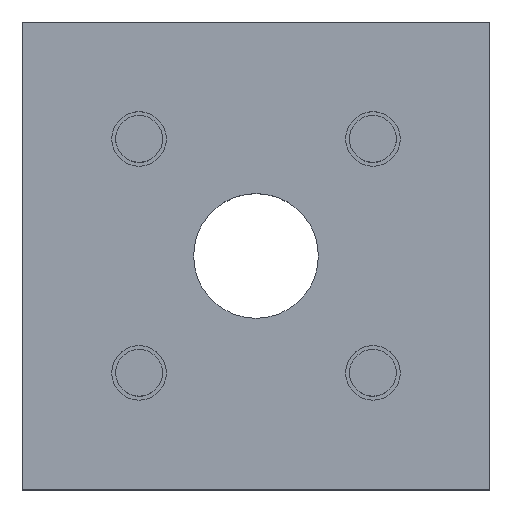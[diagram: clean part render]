
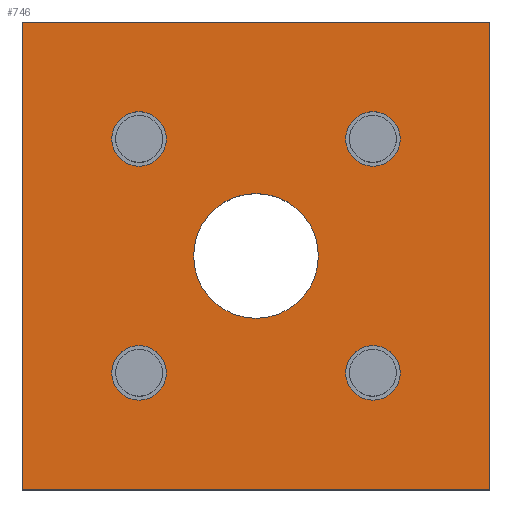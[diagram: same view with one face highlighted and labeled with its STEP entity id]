
A CAD part, top view. The second image highlights one B-rep face of the part: STEP entity #746.
In plain terms, the highlighted planar face has unit normal (0, 0, 1).
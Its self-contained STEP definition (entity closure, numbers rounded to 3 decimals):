
#202=CARTESIAN_POINT('',(15.,-18.5,0.0));
#203=VERTEX_POINT('',#202);
#204=CARTESIAN_POINT('',(15.,-15.,0.0));
#205=DIRECTION('',(0.0,0.0,-1.0));
#206=DIRECTION('',(0.0,1.0,0.0));
#207=AXIS2_PLACEMENT_3D('',#204,#205,#206);
#208=CIRCLE('',#207,3.5);
#209=EDGE_CURVE('',#203,#203,#208,.T.);
#312=CARTESIAN_POINT('',(-18.5,-15.,0.0));
#313=VERTEX_POINT('',#312);
#314=CARTESIAN_POINT('',(-15.,-15.,0.0));
#315=DIRECTION('',(0.0,0.0,-1.0));
#316=DIRECTION('',(1.0,0.0,0.0));
#317=AXIS2_PLACEMENT_3D('',#314,#315,#316);
#318=CIRCLE('',#317,3.5);
#319=EDGE_CURVE('',#313,#313,#318,.T.);
#422=CARTESIAN_POINT('',(-15.,18.5,0.0));
#423=VERTEX_POINT('',#422);
#424=CARTESIAN_POINT('',(-15.,15.,0.0));
#425=DIRECTION('',(0.0,0.0,-1.0));
#426=DIRECTION('',(0.0,-1.0,0.0));
#427=AXIS2_PLACEMENT_3D('',#424,#425,#426);
#428=CIRCLE('',#427,3.5);
#429=EDGE_CURVE('',#423,#423,#428,.T.);
#532=CARTESIAN_POINT('',(18.5,15.,0.0));
#533=VERTEX_POINT('',#532);
#534=CARTESIAN_POINT('',(15.,15.,0.0));
#535=DIRECTION('',(0.0,0.0,-1.0));
#536=DIRECTION('',(-1.0,0.0,0.0));
#537=AXIS2_PLACEMENT_3D('',#534,#535,#536);
#538=CIRCLE('',#537,3.5);
#539=EDGE_CURVE('',#533,#533,#538,.T.);
#584=CARTESIAN_POINT('',(8.,0.0,0.0));
#585=VERTEX_POINT('',#584);
#586=CARTESIAN_POINT('',(0.0,0.0,0.0));
#587=DIRECTION('',(0.0,0.0,-1.0));
#588=DIRECTION('',(1.0,0.0,0.0));
#589=AXIS2_PLACEMENT_3D('',#586,#587,#588);
#590=CIRCLE('',#589,8.);
#591=EDGE_CURVE('',#585,#585,#590,.T.);
#611=CARTESIAN_POINT('',(30.,-30.,0.0));
#612=VERTEX_POINT('',#611);
#619=CARTESIAN_POINT('',(-30.,-30.,0.0));
#620=VERTEX_POINT('',#619);
#621=CARTESIAN_POINT('',(30.,-30.,0.0));
#622=DIRECTION('',(-1.0,0.0,0.0));
#623=VECTOR('',#622,60.);
#624=LINE('',#621,#623);
#625=EDGE_CURVE('',#612,#620,#624,.T.);
#649=CARTESIAN_POINT('',(30.,30.,0.0));
#650=VERTEX_POINT('',#649);
#657=CARTESIAN_POINT('',(30.,30.,0.0));
#658=DIRECTION('',(0.0,-1.0,0.0));
#659=VECTOR('',#658,60.);
#660=LINE('',#657,#659);
#661=EDGE_CURVE('',#650,#612,#660,.T.);
#680=CARTESIAN_POINT('',(-30.,30.,0.0));
#681=VERTEX_POINT('',#680);
#688=CARTESIAN_POINT('',(-30.,30.,0.0));
#689=DIRECTION('',(1.0,0.0,0.0));
#690=VECTOR('',#689,60.);
#691=LINE('',#688,#690);
#692=EDGE_CURVE('',#681,#650,#691,.T.);
#710=CARTESIAN_POINT('',(-30.,-30.,0.0));
#711=DIRECTION('',(0.0,1.0,0.0));
#712=VECTOR('',#711,60.);
#713=LINE('',#710,#712);
#714=EDGE_CURVE('',#620,#681,#713,.T.);
#720=CARTESIAN_POINT('',(0.,0.0,0.0));
#721=DIRECTION('',(0.0,0.0,1.0));
#722=DIRECTION('',(1.0,0.0,0.0));
#723=AXIS2_PLACEMENT_3D('',#720,#721,#722);
#724=PLANE('',#723);
#725=ORIENTED_EDGE('',*,*,#714,.F.);
#726=ORIENTED_EDGE('',*,*,#625,.F.);
#727=ORIENTED_EDGE('',*,*,#661,.F.);
#728=ORIENTED_EDGE('',*,*,#692,.F.);
#729=EDGE_LOOP('',(#725,#726,#727,#728));
#730=FACE_OUTER_BOUND('',#729,.T.);
#731=ORIENTED_EDGE('',*,*,#209,.T.);
#732=EDGE_LOOP('',(#731));
#733=FACE_BOUND('',#732,.T.);
#734=ORIENTED_EDGE('',*,*,#319,.T.);
#735=EDGE_LOOP('',(#734));
#736=FACE_BOUND('',#735,.T.);
#737=ORIENTED_EDGE('',*,*,#429,.T.);
#738=EDGE_LOOP('',(#737));
#739=FACE_BOUND('',#738,.T.);
#740=ORIENTED_EDGE('',*,*,#539,.T.);
#741=EDGE_LOOP('',(#740));
#742=FACE_BOUND('',#741,.T.);
#743=ORIENTED_EDGE('',*,*,#591,.T.);
#744=EDGE_LOOP('',(#743));
#745=FACE_BOUND('',#744,.T.);
#746=ADVANCED_FACE('',(#730,#733,#736,#739,#742,#745),#724,.T.);
